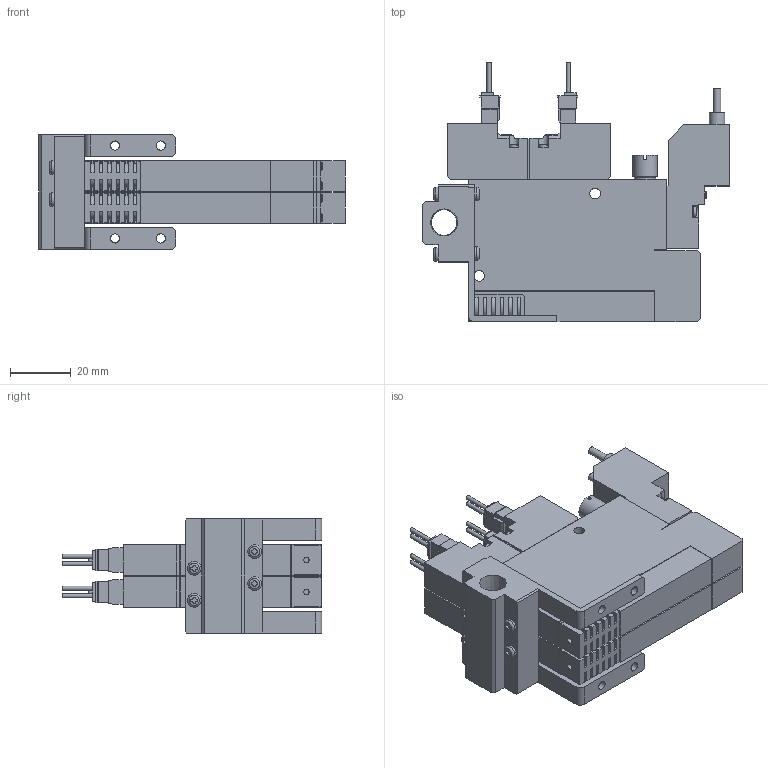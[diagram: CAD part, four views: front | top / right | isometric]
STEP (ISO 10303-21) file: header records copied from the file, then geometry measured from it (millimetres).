
FILE_DESCRIPTION(('STEP AP203'),'1');
FILE_NAME('5SS202_3D.stp','2024-09-04T09:30:33',(' '),(' '),'Spatial InterOp 3D',' ',' ');
FILE_SCHEMA(('CONFIG_CONTROL_DESIGN'));
Length unit declared in the file: millimetre
Products named in the file (5): BSC1M※※V8※5SS202; Solenoid valve S; Pressure Sensor V8; Unit-S; BaseMS20R
Assembly tree (7 placements, depth 2):
  BSC1M※※V8※5SS202
    Solenoid valve S  x2
    Pressure Sensor V8  x2
    Unit-S  x2
    BaseMS20R
Bounding box: 100.5 x 85.05 x 37.5 mm (x, y, z)
Volume: 103347.2 mm3; surface area: 43533.7 mm2
Topology: 7 solids, 7 shells, 1047 faces, 2859 edges, 1894 vertices
Faces by surface type: plane 768, cylinder 235, cone 16, torus 16, sphere 12
Full cylindrical faces by diameter (mm): 1.4 x8, 1.8 x2, 2.5 x10, 3 x12, 3.5 x12, 4 x2, 4.134 x4, 4.5 x8, 5 x2, 5.5 x2, 7 x2, 7.7 x2, 8 x2, 8.422 x1
Entity records: 19251 total; most frequent: CARTESIAN_POINT 4113, ORIENTED_EDGE 3060, DIRECTION 2975, EDGE_CURVE 1530, LINE 1125, VECTOR 1125, VERTEX_POINT 1053, AXIS2_PLACEMENT_3D 925
